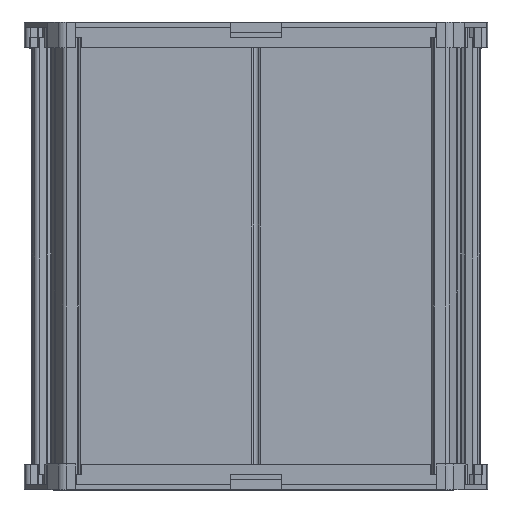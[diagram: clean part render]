
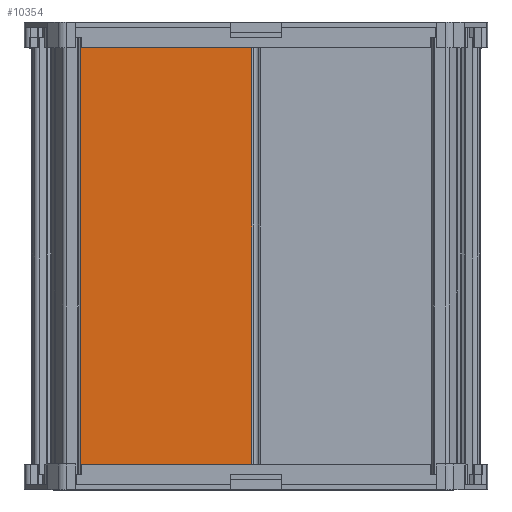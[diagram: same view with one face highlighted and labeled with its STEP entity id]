
A CAD part, top view. The second image highlights one B-rep face of the part: STEP entity #10354.
In plain terms, the highlighted planar face has unit normal (0, 0, 1) as drawn and (0, 1, 0) by its records, which use the part's own axes.
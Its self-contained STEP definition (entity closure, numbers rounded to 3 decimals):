
#788=FACE_OUTER_BOUND('',#1326,.T.);
#1326=EDGE_LOOP('',(#6923,#6924,#6925,#6926));
#1940=LINE('',#15342,#3068);
#1941=LINE('',#15344,#3069);
#1942=LINE('',#15346,#3070);
#1943=LINE('',#15347,#3071);
#3068=VECTOR('',#12219,1.);
#3069=VECTOR('',#12220,1.);
#3070=VECTOR('',#12221,1.);
#3071=VECTOR('',#12222,1.);
#4217=VERTEX_POINT('',#15340);
#4218=VERTEX_POINT('',#15341);
#4219=VERTEX_POINT('',#15343);
#4220=VERTEX_POINT('',#15345);
#5306=EDGE_CURVE('',#4217,#4218,#1940,.T.);
#5307=EDGE_CURVE('',#4218,#4219,#1941,.T.);
#5308=EDGE_CURVE('',#4220,#4219,#1942,.T.);
#5309=EDGE_CURVE('',#4217,#4220,#1943,.T.);
#6923=ORIENTED_EDGE('',*,*,#5306,.T.);
#6924=ORIENTED_EDGE('',*,*,#5307,.T.);
#6925=ORIENTED_EDGE('',*,*,#5308,.F.);
#6926=ORIENTED_EDGE('',*,*,#5309,.F.);
#9993=PLANE('',#11067);
#10354=ADVANCED_FACE('',(#788),#9993,.F.);
#11067=AXIS2_PLACEMENT_3D('',#15339,#12217,#12218);
#12217=DIRECTION('center_axis',(0.,-1.,0.));
#12218=DIRECTION('ref_axis',(-1.,0.,0.));
#12219=DIRECTION('',(-1.,0.,0.));
#12220=DIRECTION('',(0.,0.,1.));
#12221=DIRECTION('',(-1.,0.,0.));
#12222=DIRECTION('',(0.,0.,1.));
#15339=CARTESIAN_POINT('Origin',(-0.866,21.5,-10.));
#15340=CARTESIAN_POINT('',(-0.866,21.5,-20.5));
#15341=CARTESIAN_POINT('',(-36.444,21.5,-20.5));
#15342=CARTESIAN_POINT('',(0.,21.5,-20.5));
#15343=CARTESIAN_POINT('',(-36.444,21.5,64.));
#15344=CARTESIAN_POINT('',(-36.444,21.5,0.));
#15345=CARTESIAN_POINT('',(-0.866,21.5,64.));
#15346=CARTESIAN_POINT('',(0.,21.5,64.));
#15347=CARTESIAN_POINT('',(-0.866,21.5,-10.));
